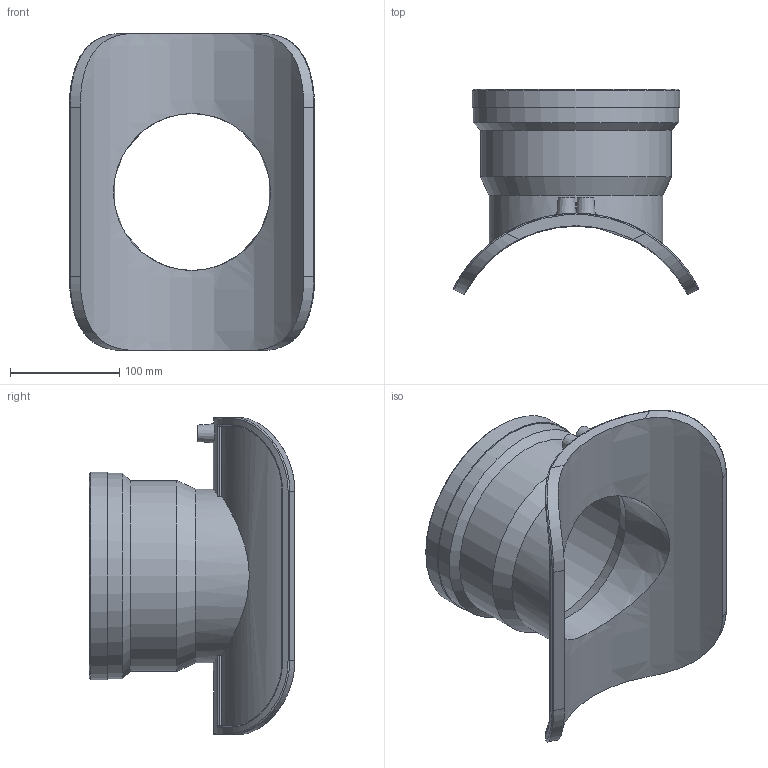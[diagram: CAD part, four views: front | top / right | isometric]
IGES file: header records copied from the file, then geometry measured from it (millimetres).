
Global section: file name: 5758BPV4100060.ipt; native system: Autodesk Inventor 2019; preprocessor: unknown; author: 12HКирилл; date: 20210830.100828; units: inch
Bounding box: 223.99 x 187.86 x 289.56 mm (x, y, z)
Volume: 1157010.9 mm3; surface area: 274535.8 mm2
Topology: 1 solids, 1 shells, 83 faces, 200 edges, 127 vertices
Faces by surface type: revolution 24, plane 23, cylinder 22, bspline 8, cone 6
Full cylindrical faces by diameter (mm): 4 x2, 158.636 x1, 159.1 x1, 174.546 x1, 188.092 x1, 189.992 x1
